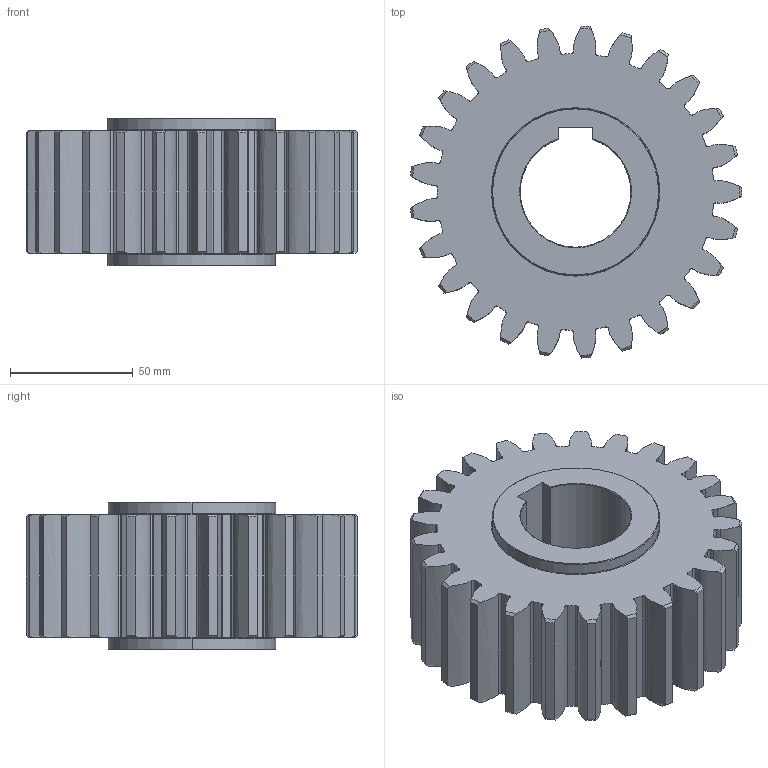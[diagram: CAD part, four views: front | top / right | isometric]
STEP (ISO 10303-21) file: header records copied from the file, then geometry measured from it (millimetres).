
FILE_DESCRIPTION (( 'STEP AP214' ), '1' );
FILE_NAME ('1SG__S050025S.STEP', '2021-08-03T07:53:13', ( '' ), ( '' ), 'SwSTEP 2.0', 'SolidWorks 2021', '' );
FILE_SCHEMA (( 'AUTOMOTIVE_DESIGN' ));
Length unit declared in the file: millimetre
Products named in the file (1): 1SG__S050025S
Bounding box: 134.67 x 134.91 x 60 mm (x, y, z)
Volume: 540365.3 mm3; surface area: 71676.5 mm2
Topology: 1 solids, 1 shells, 268 faces, 830 edges, 566 vertices
Faces by surface type: cylinder 96, bspline 75, cone 61, plane 32, torus 4
Entity records: 17252 total; most frequent: CARTESIAN_POINT 10102, ORIENTED_EDGE 1660, DIRECTION 1326, EDGE_CURVE 830, VERTEX_POINT 566, AXIS2_PLACEMENT_3D 506, VECTOR 314, LINE 314
